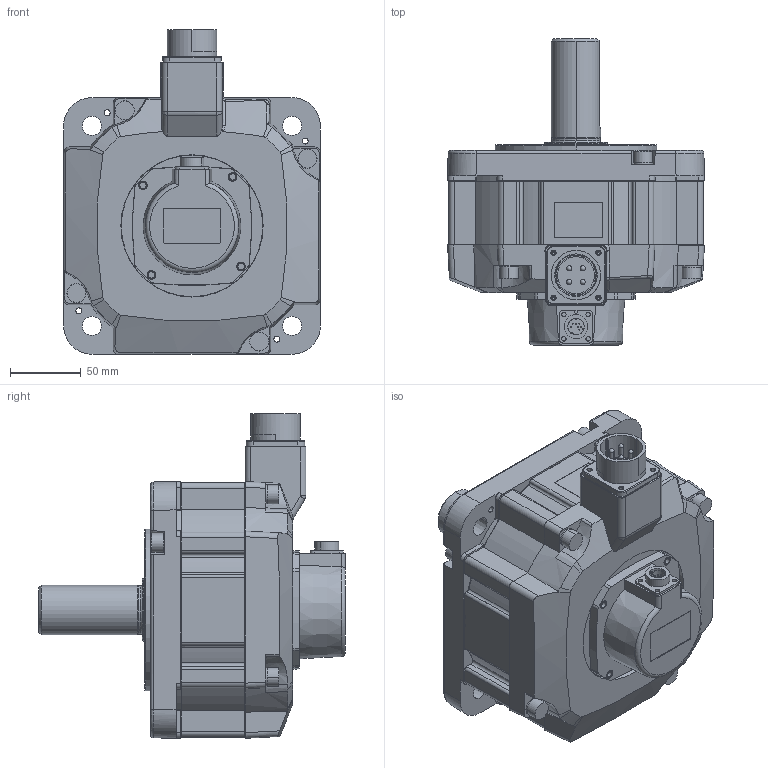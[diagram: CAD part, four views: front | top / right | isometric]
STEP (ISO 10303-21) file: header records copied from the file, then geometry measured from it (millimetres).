
FILE_DESCRIPTION((''),'2;1');
FILE_NAME('ECM-B3M-E21820RS1','2019-05-29T',('MIO.CHEN'),(''),'CREO PARAMETRIC BY PTC INC, 2015080','CREO PARAMETRIC BY PTC INC, 2015080','');
FILE_SCHEMA(('CONFIG_CONTROL_DESIGN'));
Length unit declared in the file: millimetre
Products named in the file (1): ECM-B3M-E21820RS1
Bounding box: 181.48 x 216.5 x 229.44 mm (x, y, z)
Volume: 3097598.9 mm3; surface area: 182273.6 mm2
Topology: 1 solids, 3 shells, 919 faces, 2412 edges, 1550 vertices
Faces by surface type: cylinder 402, plane 303, cone 127, bspline 64, torus 12, sphere 11
Entity records: 31999 total; most frequent: CARTESIAN_POINT 9348, ORIENTED_EDGE 4788, DIRECTION 4750, EDGE_CURVE 2394, AXIS2_PLACEMENT_3D 1830, VERTEX_POINT 1550, VECTOR 1090, LINE 1090
